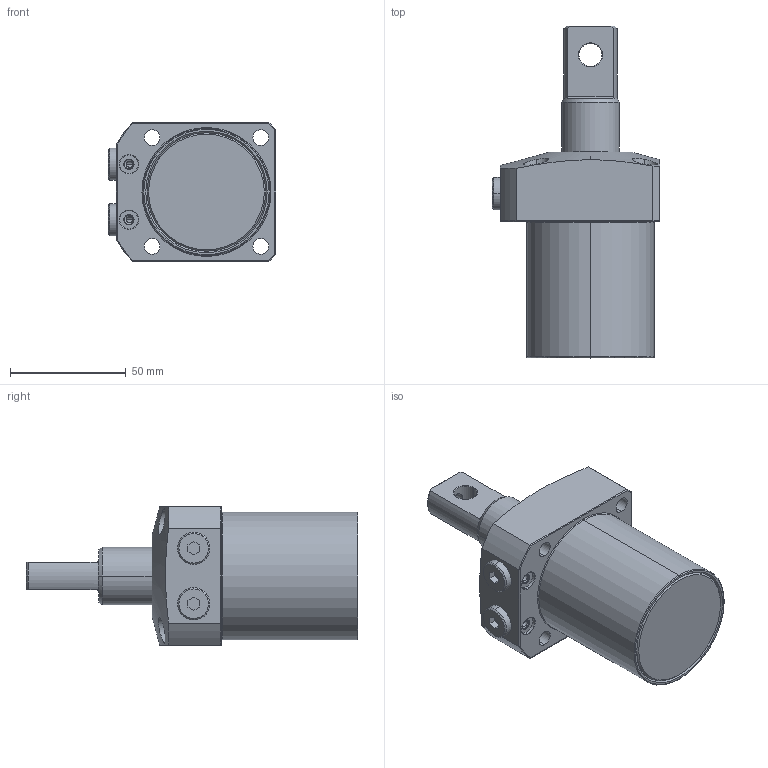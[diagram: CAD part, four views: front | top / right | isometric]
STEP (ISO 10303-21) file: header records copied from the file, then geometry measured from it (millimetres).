
FILE_DESCRIPTION(/* description */ (''),/* implementation_level */ '2;1');
FILE_NAME(/* name */ 'KTRC55-P.stp',/* time_stamp */ '2022-11-17T15:38:43+08:00',/* author */ (''),/* organization */ (''),/* preprocessor_version */ 'ST-DEVELOPER v16.7',/* originating_system */ 'SIEMENS PLM Software NX 12.0',/* authorisation */ '');
FILE_SCHEMA (('AP203_CONFIGURATION_CONTROLLED_3D_DESIGN_OF_MECHANICAL_PARTS_AND_ASSEMBLIES_MIM_LF { 1 0 10303 403 2 1 2}'));
Length unit declared in the file: millimetre
Products named in the file (4): KTRC55-P-03; KTRC55-P-02; KTRC55-P-01; LHA0550-Cx-P_rev1_step
Assembly tree (4 placements, depth 2):
  LHA0550-Cx-P_rev1_step
    KTRC55-P-01
    KTRC55-P-02
    KTRC55-P-03  x2
Bounding box: 72.5 x 143.5 x 60 mm (x, y, z)
Volume: 266354 mm3; surface area: 35098.1 mm2
Topology: 4 solids, 4 shells, 162 faces, 381 edges, 239 vertices
Faces by surface type: cylinder 65, plane 48, cone 39, torus 10
Entity records: 5289 total; most frequent: CARTESIAN_POINT 1331, DIRECTION 762, ORIENTED_EDGE 706, EDGE_CURVE 353, AXIS2_PLACEMENT_3D 313, VERTEX_POINT 221, EDGE_LOOP 176, CIRCLE 159
